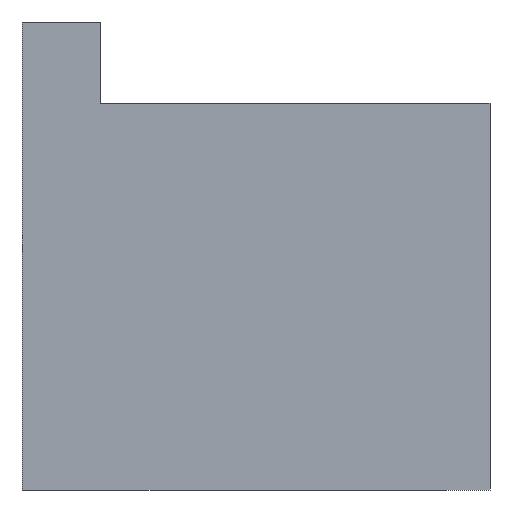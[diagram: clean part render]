
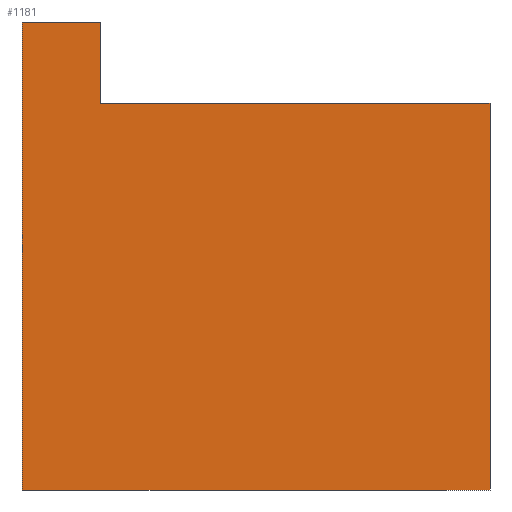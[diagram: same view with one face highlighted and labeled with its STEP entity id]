
A CAD part, left-side view. The second image highlights one B-rep face of the part: STEP entity #1181.
In plain terms, the highlighted planar face has unit normal (-1, 0, 0).
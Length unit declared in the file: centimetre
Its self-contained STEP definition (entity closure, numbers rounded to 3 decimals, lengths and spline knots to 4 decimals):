
#1 = CARTESIAN_POINT ( 'NONE',  ( 0., 0., 826.112 ) ) ;
#11 = EDGE_CURVE ( 'NONE', #214, #753, #859, .T. ) ;
#27 = VERTEX_POINT ( 'NONE', #595 ) ;
#29 = CARTESIAN_POINT ( 'NONE',  ( 0., 1000., 0. ) ) ;
#34 = ORIENTED_EDGE ( 'NONE', *, *, #879, .F. ) ;
#57 = ORIENTED_EDGE ( 'NONE', *, *, #62, .T. ) ;
#62 = EDGE_CURVE ( 'NONE', #1028, #753, #938, .T. ) ;
#63 = CARTESIAN_POINT ( 'NONE',  ( 0., 1000., 0. ) ) ;
#73 = VERTEX_POINT ( 'NONE', #771 ) ;
#105 = VERTEX_POINT ( 'NONE', #1089 ) ;
#144 = VECTOR ( 'NONE', #505, 100. ) ;
#147 = DIRECTION ( 'NONE',  ( 1., 0., 0. ) ) ;
#152 = ORIENTED_EDGE ( 'NONE', *, *, #11, .F. ) ;
#173 = CARTESIAN_POINT ( 'NONE',  ( 0., 0., 0. ) ) ;
#214 = VERTEX_POINT ( 'NONE', #1 ) ;
#252 = EDGE_CURVE ( 'NONE', #105, #73, #323, .T. ) ;
#253 = LINE ( 'NONE', #697, #553 ) ;
#323 = LINE ( 'NONE', #1023, #144 ) ;
#353 = VECTOR ( 'NONE', #767, 100. ) ;
#393 = EDGE_CURVE ( 'NONE', #27, #214, #253, .T. ) ;
#396 = CARTESIAN_POINT ( 'NONE',  ( 0., 831.3551, 826.112 ) ) ;
#400 = DIRECTION ( 'NONE',  ( 0., -1., 0. ) ) ;
#413 = LINE ( 'NONE', #396, #353 ) ;
#431 = EDGE_CURVE ( 'NONE', #105, #1028, #871, .T. ) ;
#479 = PLANE ( 'NONE',  #950 ) ;
#505 = DIRECTION ( 'NONE',  ( 0., -1., 0. ) ) ;
#508 = VECTOR ( 'NONE', #617, 100. ) ;
#543 = VECTOR ( 'NONE', #960, 100. ) ;
#553 = VECTOR ( 'NONE', #1054, 100. ) ;
#574 = CARTESIAN_POINT ( 'NONE',  ( 0., 0., 1000. ) ) ;
#595 = CARTESIAN_POINT ( 'NONE',  ( 0., 831.3551, 826.112 ) ) ;
#617 = DIRECTION ( 'NONE',  ( 0., 0., -1. ) ) ;
#637 = ORIENTED_EDGE ( 'NONE', *, *, #431, .T. ) ;
#697 = CARTESIAN_POINT ( 'NONE',  ( 0., 831.3551, 826.112 ) ) ;
#753 = VERTEX_POINT ( 'NONE', #173 ) ;
#767 = DIRECTION ( 'NONE',  ( 0., 0., -1. ) ) ;
#771 = CARTESIAN_POINT ( 'NONE',  ( 0., 831.3551, 1000. ) ) ;
#781 = VECTOR ( 'NONE', #400, 100. ) ;
#791 = DIRECTION ( 'NONE',  ( 0., 0., -1. ) ) ;
#849 = ORIENTED_EDGE ( 'NONE', *, *, #393, .F. ) ;
#858 = EDGE_LOOP ( 'NONE', ( #152, #849, #34, #1128, #637, #57 ) ) ;
#859 = LINE ( 'NONE', #574, #508 ) ;
#871 = LINE ( 'NONE', #978, #543 ) ;
#879 = EDGE_CURVE ( 'NONE', #73, #27, #413, .T. ) ;
#938 = LINE ( 'NONE', #29, #781 ) ;
#948 = FACE_OUTER_BOUND ( 'NONE', #858, .T. ) ;
#950 = AXIS2_PLACEMENT_3D ( 'NONE', #1016, #147, #791 ) ;
#960 = DIRECTION ( 'NONE',  ( 0., 0., -1. ) ) ;
#978 = CARTESIAN_POINT ( 'NONE',  ( 0., 1000., 1000. ) ) ;
#1016 = CARTESIAN_POINT ( 'NONE',  ( 0., 1000., 1000. ) ) ;
#1023 = CARTESIAN_POINT ( 'NONE',  ( 0., 1000., 1000. ) ) ;
#1028 = VERTEX_POINT ( 'NONE', #63 ) ;
#1054 = DIRECTION ( 'NONE',  ( 0., -1., 0. ) ) ;
#1089 = CARTESIAN_POINT ( 'NONE',  ( 0., 1000., 1000. ) ) ;
#1128 = ORIENTED_EDGE ( 'NONE', *, *, #252, .F. ) ;
#1181 = ADVANCED_FACE ( 'NONE', ( #948 ), #479, .F. ) ;
